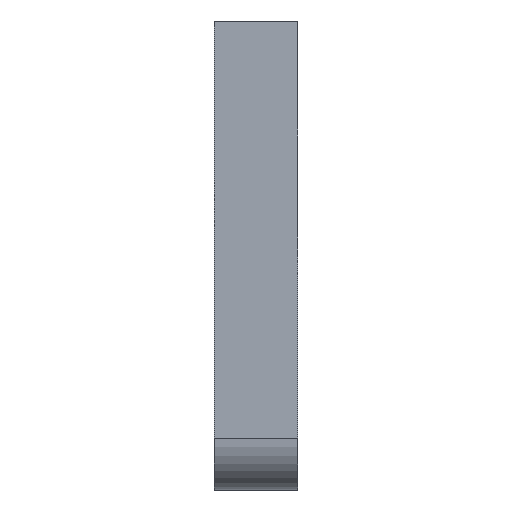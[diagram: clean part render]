
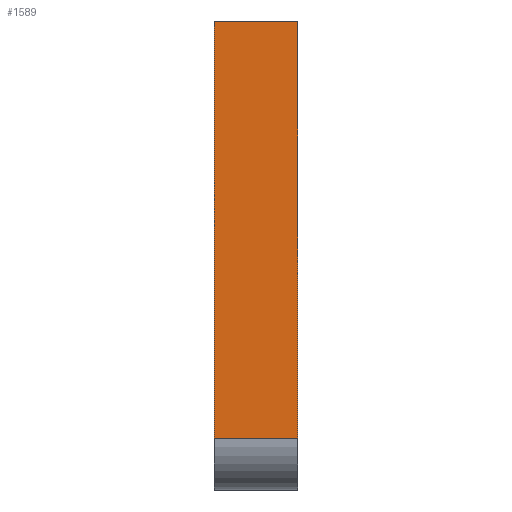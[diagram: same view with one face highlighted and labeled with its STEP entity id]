
A CAD part, left-side view. The second image highlights one B-rep face of the part: STEP entity #1589.
In plain terms, the highlighted planar face has unit normal (-1, 0, 0).
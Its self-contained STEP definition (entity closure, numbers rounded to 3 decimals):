
#15 = CARTESIAN_POINT ( 'NONE',  ( -35., 8., -17.5 ) ) ;
#82 = PLANE ( 'NONE',  #84 ) ;
#84 = AXIS2_PLACEMENT_3D ( 'NONE', #1252, #946, #1817 ) ;
#170 = CARTESIAN_POINT ( 'NONE',  ( -35., 8., -17.5 ) ) ;
#249 = CARTESIAN_POINT ( 'NONE',  ( -35., 0., -22.5 ) ) ;
#266 = VECTOR ( 'NONE', #1670, 1000. ) ;
#294 = EDGE_LOOP ( 'NONE', ( #867, #1847, #1531, #734 ) ) ;
#298 = CARTESIAN_POINT ( 'NONE',  ( -35., 8., -22.5 ) ) ;
#321 = LINE ( 'NONE', #249, #266 ) ;
#341 = VECTOR ( 'NONE', #1187, 1000. ) ;
#350 = LINE ( 'NONE', #298, #1455 ) ;
#386 = VECTOR ( 'NONE', #1360, 1000. ) ;
#395 = VERTEX_POINT ( 'NONE', #1482 ) ;
#510 = EDGE_CURVE ( 'NONE', #1877, #1325, #321, .T. ) ;
#673 = EDGE_CURVE ( 'NONE', #1230, #395, #350, .T. ) ;
#711 = CARTESIAN_POINT ( 'NONE',  ( -35., 8., 22.5 ) ) ;
#734 = ORIENTED_EDGE ( 'NONE', *, *, #1469, .F. ) ;
#774 = LINE ( 'NONE', #170, #341 ) ;
#867 = ORIENTED_EDGE ( 'NONE', *, *, #673, .F. ) ;
#946 = DIRECTION ( 'NONE',  ( 1., 0., 0. ) ) ;
#1173 = DIRECTION ( 'NONE',  ( 0., 0., 1. ) ) ;
#1187 = DIRECTION ( 'NONE',  ( 0., -1., 0. ) ) ;
#1230 = VERTEX_POINT ( 'NONE', #15 ) ;
#1252 = CARTESIAN_POINT ( 'NONE',  ( -35., 8., -22.5 ) ) ;
#1325 = VERTEX_POINT ( 'NONE', #1581 ) ;
#1348 = EDGE_CURVE ( 'NONE', #1230, #1877, #774, .T. ) ;
#1360 = DIRECTION ( 'NONE',  ( 0., -1., 0. ) ) ;
#1369 = FACE_OUTER_BOUND ( 'NONE', #294, .T. ) ;
#1455 = VECTOR ( 'NONE', #1173, 1000. ) ;
#1469 = EDGE_CURVE ( 'NONE', #395, #1325, #1510, .T. ) ;
#1482 = CARTESIAN_POINT ( 'NONE',  ( -35., 8., 22.5 ) ) ;
#1510 = LINE ( 'NONE', #711, #386 ) ;
#1531 = ORIENTED_EDGE ( 'NONE', *, *, #510, .T. ) ;
#1581 = CARTESIAN_POINT ( 'NONE',  ( -35., 0., 22.5 ) ) ;
#1589 = ADVANCED_FACE ( 'NONE', ( #1369 ), #82, .F. ) ;
#1670 = DIRECTION ( 'NONE',  ( 0., 0., 1. ) ) ;
#1807 = CARTESIAN_POINT ( 'NONE',  ( -35., 0., -17.5 ) ) ;
#1817 = DIRECTION ( 'NONE',  ( 0., 0., -1. ) ) ;
#1847 = ORIENTED_EDGE ( 'NONE', *, *, #1348, .T. ) ;
#1877 = VERTEX_POINT ( 'NONE', #1807 ) ;
